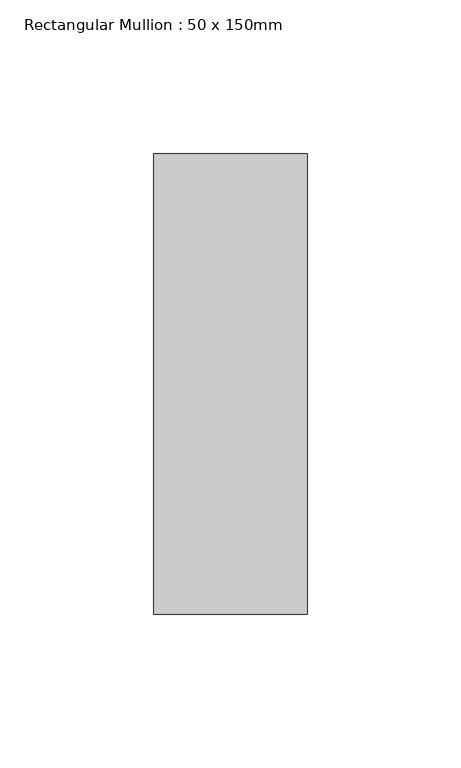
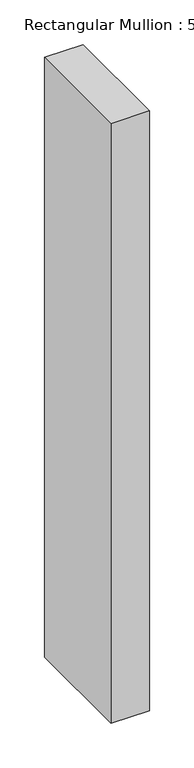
"""IFC4 building model written with IfcOpenShell, lengths in millimetres: member geometry, Rectangular Mullion : 50 x 150mm."""

from ifc_helpers import new_model, si_unit, frame, origin, place, context, project, spatial, polyline, outline, extrude, source, transform, mapped, element, save


def rectangular_mullion_50_x_150mm_e596f8d2(model_context):
    return source(origin(), model_context, "Body", "SweptSolid", [
        extrude(outline(polyline([(0.0, 75.0), (0.0, -75.0), (-50.0, -75.0), (-50.0, 75.0), (0.0, 75.0)])), frame((0.0, 0.0, -822.0818342), z_axis=(0.0, 0.0, 1.0), x_axis=(1.0, 0.0, 0.0)), (0.0, 0.0, 1.0), 822.0818342),
    ])


if __name__ == "__main__":
    model = new_model("IFC4")
    model_context = context("Model", 3, world=origin())
    ifc_project = project(units=[si_unit("LENGTHUNIT", "METRE", prefix="MILLI")], contexts=[model_context])
    site = spatial("IfcSite", under=ifc_project)
    building = spatial("IfcBuilding", under=site)
    placement = place(None, origin())
    rectangular_mullion_50_x_150mm_shape = rectangular_mullion_50_x_150mm_e596f8d2(model_context)
    element("IfcMember", 1, ObjectType="Rectangular Mullion : 50 x 150mm", at=placement, inside=building, context=model_context, shape_type="MappedRepresentation", body=[
        mapped(rectangular_mullion_50_x_150mm_shape, transform((0.0, 0.0, 0.0), x_axis=(1.0, 0.0, 0.0), y_axis=(0.0, 1.0, 0.0), z_axis=(0.0, 0.0, 1.0))),
    ])
    save(model, "model.ifc")
